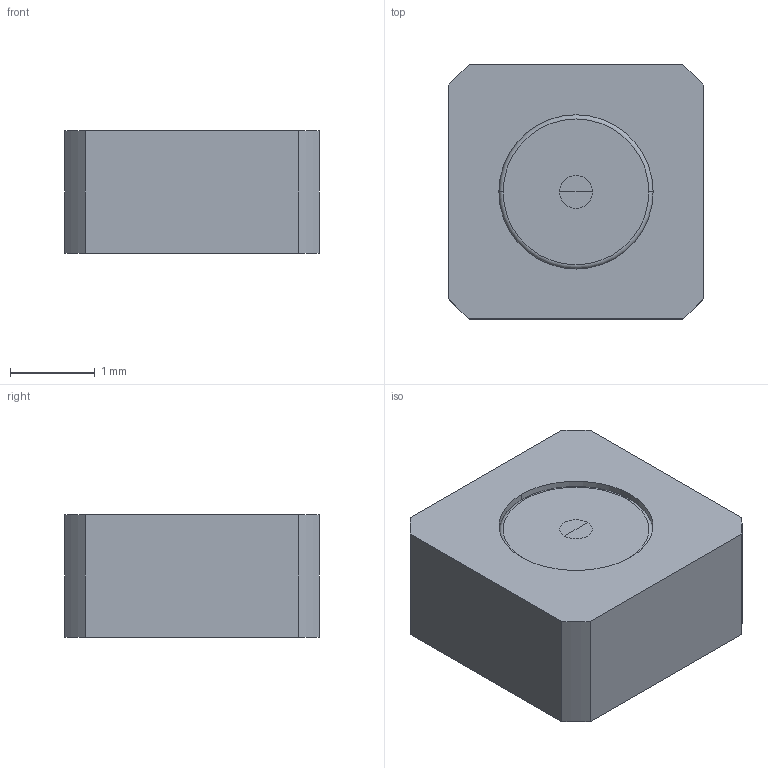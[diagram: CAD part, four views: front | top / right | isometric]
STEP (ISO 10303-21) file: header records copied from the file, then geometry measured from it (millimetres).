
FILE_DESCRIPTION((''),'2;1');
FILE_NAME('355960_ASM','2025-07-30T20:18:32',('admin'),('LIGHTPATH'),'CREO PARAMETRIC BY PTC INC, 2024063','CREO PARAMETRIC BY PTC INC, 2024063','');
FILE_SCHEMA(('CONFIG_CONTROL_DESIGN'));
Length unit declared in the file: millimetre
Products named in the file (3): 355960; 6100451; 355960_ASM
Assembly tree (2 placements, depth 2):
  355960_ASM
    355960
    6100451
Bounding box: 3 x 3 x 1.45 mm (x, y, z)
Volume: 11.4 mm3; surface area: 48.4 mm2
Topology: 2 solids, 2 shells, 33 faces, 74 edges, 44 vertices
Faces by surface type: cylinder 10, plane 9, torus 8, revolution 4, cone 2
Entity records: 1455 total; most frequent: CARTESIAN_POINT 617, DIRECTION 182, ORIENTED_EDGE 140, AXIS2_PLACEMENT_3D 76, EDGE_CURVE 70, VERTEX_POINT 44, CIRCLE 42, EDGE_LOOP 38
